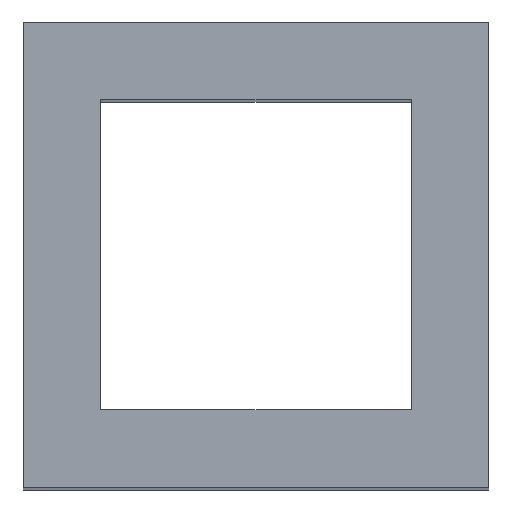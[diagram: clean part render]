
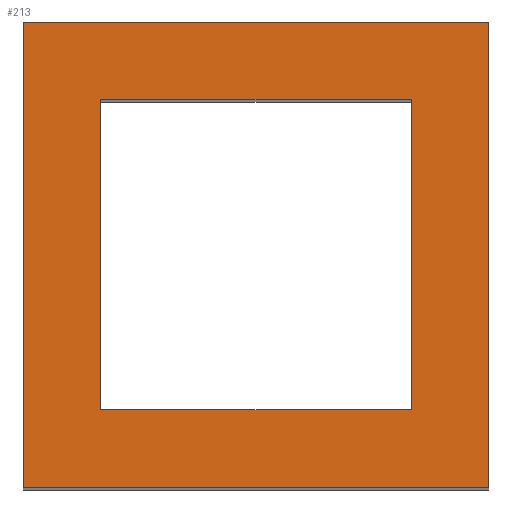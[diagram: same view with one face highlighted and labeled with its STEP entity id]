
A CAD part, top view. The second image highlights one B-rep face of the part: STEP entity #213.
In plain terms, the highlighted planar face has unit normal (0, 0, 1).
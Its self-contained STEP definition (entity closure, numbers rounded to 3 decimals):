
#24 = VERTEX_POINT('',#25);
#25 = CARTESIAN_POINT('',(-1.5,235.,69.));
#32 = PLANE('',#33);
#33 = AXIS2_PLACEMENT_3D('',#34,#35,#36);
#34 = CARTESIAN_POINT('',(-1.5,235.,4.));
#35 = DIRECTION('',(1.,0.,-0.));
#36 = DIRECTION('',(0.,0.,1.));
#44 = PLANE('',#45);
#45 = AXIS2_PLACEMENT_3D('',#46,#47,#48);
#46 = CARTESIAN_POINT('',(-1.5,235.,4.));
#47 = DIRECTION('',(-0.,1.,0.));
#48 = DIRECTION('',(0.,0.,1.));
#85 = VERTEX_POINT('',#86);
#86 = CARTESIAN_POINT('',(-1.5,253.,69.));
#100 = PLANE('',#101);
#101 = AXIS2_PLACEMENT_3D('',#102,#103,#104);
#102 = CARTESIAN_POINT('',(-1.5,253.,4.));
#103 = DIRECTION('',(-0.,1.,0.));
#104 = DIRECTION('',(0.,0.,1.));
#112 = EDGE_CURVE('',#24,#85,#113,.T.);
#113 = SURFACE_CURVE('',#114,(#118,#125),.PCURVE_S1.);
#114 = LINE('',#115,#116);
#115 = CARTESIAN_POINT('',(-1.5,235.,69.));
#116 = VECTOR('',#117,1.);
#117 = DIRECTION('',(-0.,1.,0.));
#118 = PCURVE('',#32,#119);
#119 = DEFINITIONAL_REPRESENTATION('',(#120),#124);
#120 = LINE('',#121,#122);
#121 = CARTESIAN_POINT('',(65.,0.));
#122 = VECTOR('',#123,1.);
#123 = DIRECTION('',(0.,-1.));
#124 = ( GEOMETRIC_REPRESENTATION_CONTEXT(2) 
PARAMETRIC_REPRESENTATION_CONTEXT() REPRESENTATION_CONTEXT('2D SPACE',''
  ) );
#125 = PCURVE('',#126,#131);
#126 = PLANE('',#127);
#127 = AXIS2_PLACEMENT_3D('',#128,#129,#130);
#128 = CARTESIAN_POINT('',(-1.5,235.,69.));
#129 = DIRECTION('',(0.,0.,1.));
#130 = DIRECTION('',(1.,0.,-0.));
#131 = DEFINITIONAL_REPRESENTATION('',(#132),#136);
#132 = LINE('',#133,#134);
#133 = CARTESIAN_POINT('',(0.,0.));
#134 = VECTOR('',#135,1.);
#135 = DIRECTION('',(0.,1.));
#136 = ( GEOMETRIC_REPRESENTATION_CONTEXT(2) 
PARAMETRIC_REPRESENTATION_CONTEXT() REPRESENTATION_CONTEXT('2D SPACE',''
  ) );
#165 = EDGE_CURVE('',#24,#166,#168,.T.);
#166 = VERTEX_POINT('',#167);
#167 = CARTESIAN_POINT('',(16.5,235.,69.));
#168 = SURFACE_CURVE('',#169,(#173,#180),.PCURVE_S1.);
#169 = LINE('',#170,#171);
#170 = CARTESIAN_POINT('',(-1.5,235.,69.));
#171 = VECTOR('',#172,1.);
#172 = DIRECTION('',(1.,0.,-0.));
#173 = PCURVE('',#44,#174);
#174 = DEFINITIONAL_REPRESENTATION('',(#175),#179);
#175 = LINE('',#176,#177);
#176 = CARTESIAN_POINT('',(65.,0.));
#177 = VECTOR('',#178,1.);
#178 = DIRECTION('',(0.,1.));
#179 = ( GEOMETRIC_REPRESENTATION_CONTEXT(2) 
PARAMETRIC_REPRESENTATION_CONTEXT() REPRESENTATION_CONTEXT('2D SPACE',''
  ) );
#180 = PCURVE('',#126,#181);
#181 = DEFINITIONAL_REPRESENTATION('',(#182),#186);
#182 = LINE('',#183,#184);
#183 = CARTESIAN_POINT('',(0.,0.));
#184 = VECTOR('',#185,1.);
#185 = DIRECTION('',(1.,0.));
#186 = ( GEOMETRIC_REPRESENTATION_CONTEXT(2) 
PARAMETRIC_REPRESENTATION_CONTEXT() REPRESENTATION_CONTEXT('2D SPACE',''
  ) );
#202 = PLANE('',#203);
#203 = AXIS2_PLACEMENT_3D('',#204,#205,#206);
#204 = CARTESIAN_POINT('',(16.5,235.,4.));
#205 = DIRECTION('',(1.,0.,-0.));
#206 = DIRECTION('',(0.,0.,1.));
#213 = ADVANCED_FACE('',(#214,#262),#126,.T.);
#214 = FACE_BOUND('',#215,.T.);
#215 = EDGE_LOOP('',(#216,#217,#218,#241));
#216 = ORIENTED_EDGE('',*,*,#112,.F.);
#217 = ORIENTED_EDGE('',*,*,#165,.T.);
#218 = ORIENTED_EDGE('',*,*,#219,.T.);
#219 = EDGE_CURVE('',#166,#220,#222,.T.);
#220 = VERTEX_POINT('',#221);
#221 = CARTESIAN_POINT('',(16.5,253.,69.));
#222 = SURFACE_CURVE('',#223,(#227,#234),.PCURVE_S1.);
#223 = LINE('',#224,#225);
#224 = CARTESIAN_POINT('',(16.5,235.,69.));
#225 = VECTOR('',#226,1.);
#226 = DIRECTION('',(-0.,1.,0.));
#227 = PCURVE('',#126,#228);
#228 = DEFINITIONAL_REPRESENTATION('',(#229),#233);
#229 = LINE('',#230,#231);
#230 = CARTESIAN_POINT('',(18.,0.));
#231 = VECTOR('',#232,1.);
#232 = DIRECTION('',(0.,1.));
#233 = ( GEOMETRIC_REPRESENTATION_CONTEXT(2) 
PARAMETRIC_REPRESENTATION_CONTEXT() REPRESENTATION_CONTEXT('2D SPACE',''
  ) );
#234 = PCURVE('',#202,#235);
#235 = DEFINITIONAL_REPRESENTATION('',(#236),#240);
#236 = LINE('',#237,#238);
#237 = CARTESIAN_POINT('',(65.,0.));
#238 = VECTOR('',#239,1.);
#239 = DIRECTION('',(0.,-1.));
#240 = ( GEOMETRIC_REPRESENTATION_CONTEXT(2) 
PARAMETRIC_REPRESENTATION_CONTEXT() REPRESENTATION_CONTEXT('2D SPACE',''
  ) );
#241 = ORIENTED_EDGE('',*,*,#242,.F.);
#242 = EDGE_CURVE('',#85,#220,#243,.T.);
#243 = SURFACE_CURVE('',#244,(#248,#255),.PCURVE_S1.);
#244 = LINE('',#245,#246);
#245 = CARTESIAN_POINT('',(-1.5,253.,69.));
#246 = VECTOR('',#247,1.);
#247 = DIRECTION('',(1.,0.,-0.));
#248 = PCURVE('',#126,#249);
#249 = DEFINITIONAL_REPRESENTATION('',(#250),#254);
#250 = LINE('',#251,#252);
#251 = CARTESIAN_POINT('',(0.,18.));
#252 = VECTOR('',#253,1.);
#253 = DIRECTION('',(1.,0.));
#254 = ( GEOMETRIC_REPRESENTATION_CONTEXT(2) 
PARAMETRIC_REPRESENTATION_CONTEXT() REPRESENTATION_CONTEXT('2D SPACE',''
  ) );
#255 = PCURVE('',#100,#256);
#256 = DEFINITIONAL_REPRESENTATION('',(#257),#261);
#257 = LINE('',#258,#259);
#258 = CARTESIAN_POINT('',(65.,0.));
#259 = VECTOR('',#260,1.);
#260 = DIRECTION('',(0.,1.));
#261 = ( GEOMETRIC_REPRESENTATION_CONTEXT(2) 
PARAMETRIC_REPRESENTATION_CONTEXT() REPRESENTATION_CONTEXT('2D SPACE',''
  ) );
#262 = FACE_BOUND('',#263,.T.);
#263 = EDGE_LOOP('',(#264,#292,#318,#344));
#264 = ORIENTED_EDGE('',*,*,#265,.T.);
#265 = EDGE_CURVE('',#266,#268,#270,.T.);
#266 = VERTEX_POINT('',#267);
#267 = CARTESIAN_POINT('',(13.5,238.,69.));
#268 = VERTEX_POINT('',#269);
#269 = CARTESIAN_POINT('',(1.5,238.,69.));
#270 = SURFACE_CURVE('',#271,(#275,#281),.PCURVE_S1.);
#271 = LINE('',#272,#273);
#272 = CARTESIAN_POINT('',(0.,238.,69.));
#273 = VECTOR('',#274,1.);
#274 = DIRECTION('',(-1.,-0.,0.));
#275 = PCURVE('',#126,#276);
#276 = DEFINITIONAL_REPRESENTATION('',(#277),#280);
#277 = B_SPLINE_CURVE_WITH_KNOTS('',1,(#278,#279),.UNSPECIFIED.,.F.,.F.,
  (2,2),(-13.5,-1.5),.PIECEWISE_BEZIER_KNOTS.);
#278 = CARTESIAN_POINT('',(15.,3.));
#279 = CARTESIAN_POINT('',(3.,3.));
#280 = ( GEOMETRIC_REPRESENTATION_CONTEXT(2) 
PARAMETRIC_REPRESENTATION_CONTEXT() REPRESENTATION_CONTEXT('2D SPACE',''
  ) );
#281 = PCURVE('',#282,#287);
#282 = PLANE('',#283);
#283 = AXIS2_PLACEMENT_3D('',#284,#285,#286);
#284 = CARTESIAN_POINT('',(1.5,238.,3.));
#285 = DIRECTION('',(-0.,1.,0.));
#286 = DIRECTION('',(0.,0.,1.));
#287 = DEFINITIONAL_REPRESENTATION('',(#288),#291);
#288 = B_SPLINE_CURVE_WITH_KNOTS('',1,(#289,#290),.UNSPECIFIED.,.F.,.F.,
  (2,2),(-13.5,-1.5),.PIECEWISE_BEZIER_KNOTS.);
#289 = CARTESIAN_POINT('',(66.,12.));
#290 = CARTESIAN_POINT('',(66.,0.));
#291 = ( GEOMETRIC_REPRESENTATION_CONTEXT(2) 
PARAMETRIC_REPRESENTATION_CONTEXT() REPRESENTATION_CONTEXT('2D SPACE',''
  ) );
#292 = ORIENTED_EDGE('',*,*,#293,.T.);
#293 = EDGE_CURVE('',#268,#294,#296,.T.);
#294 = VERTEX_POINT('',#295);
#295 = CARTESIAN_POINT('',(1.5,250.,69.));
#296 = SURFACE_CURVE('',#297,(#301,#307),.PCURVE_S1.);
#297 = LINE('',#298,#299);
#298 = CARTESIAN_POINT('',(1.5,236.5,69.));
#299 = VECTOR('',#300,1.);
#300 = DIRECTION('',(-0.,1.,0.));
#301 = PCURVE('',#126,#302);
#302 = DEFINITIONAL_REPRESENTATION('',(#303),#306);
#303 = B_SPLINE_CURVE_WITH_KNOTS('',1,(#304,#305),.UNSPECIFIED.,.F.,.F.,
  (2,2),(1.5,13.5),.PIECEWISE_BEZIER_KNOTS.);
#304 = CARTESIAN_POINT('',(3.,3.));
#305 = CARTESIAN_POINT('',(3.,15.));
#306 = ( GEOMETRIC_REPRESENTATION_CONTEXT(2) 
PARAMETRIC_REPRESENTATION_CONTEXT() REPRESENTATION_CONTEXT('2D SPACE',''
  ) );
#307 = PCURVE('',#308,#313);
#308 = PLANE('',#309);
#309 = AXIS2_PLACEMENT_3D('',#310,#311,#312);
#310 = CARTESIAN_POINT('',(1.5,238.,3.));
#311 = DIRECTION('',(1.,0.,-0.));
#312 = DIRECTION('',(0.,0.,1.));
#313 = DEFINITIONAL_REPRESENTATION('',(#314),#317);
#314 = B_SPLINE_CURVE_WITH_KNOTS('',1,(#315,#316),.UNSPECIFIED.,.F.,.F.,
  (2,2),(1.5,13.5),.PIECEWISE_BEZIER_KNOTS.);
#315 = CARTESIAN_POINT('',(66.,0.));
#316 = CARTESIAN_POINT('',(66.,-12.));
#317 = ( GEOMETRIC_REPRESENTATION_CONTEXT(2) 
PARAMETRIC_REPRESENTATION_CONTEXT() REPRESENTATION_CONTEXT('2D SPACE',''
  ) );
#318 = ORIENTED_EDGE('',*,*,#319,.F.);
#319 = EDGE_CURVE('',#320,#294,#322,.T.);
#320 = VERTEX_POINT('',#321);
#321 = CARTESIAN_POINT('',(13.5,250.,69.));
#322 = SURFACE_CURVE('',#323,(#327,#333),.PCURVE_S1.);
#323 = LINE('',#324,#325);
#324 = CARTESIAN_POINT('',(0.,250.,69.));
#325 = VECTOR('',#326,1.);
#326 = DIRECTION('',(-1.,-0.,0.));
#327 = PCURVE('',#126,#328);
#328 = DEFINITIONAL_REPRESENTATION('',(#329),#332);
#329 = B_SPLINE_CURVE_WITH_KNOTS('',1,(#330,#331),.UNSPECIFIED.,.F.,.F.,
  (2,2),(-13.5,-1.5),.PIECEWISE_BEZIER_KNOTS.);
#330 = CARTESIAN_POINT('',(15.,15.));
#331 = CARTESIAN_POINT('',(3.,15.));
#332 = ( GEOMETRIC_REPRESENTATION_CONTEXT(2) 
PARAMETRIC_REPRESENTATION_CONTEXT() REPRESENTATION_CONTEXT('2D SPACE',''
  ) );
#333 = PCURVE('',#334,#339);
#334 = PLANE('',#335);
#335 = AXIS2_PLACEMENT_3D('',#336,#337,#338);
#336 = CARTESIAN_POINT('',(1.5,250.,3.));
#337 = DIRECTION('',(-0.,1.,0.));
#338 = DIRECTION('',(0.,0.,1.));
#339 = DEFINITIONAL_REPRESENTATION('',(#340),#343);
#340 = B_SPLINE_CURVE_WITH_KNOTS('',1,(#341,#342),.UNSPECIFIED.,.F.,.F.,
  (2,2),(-13.5,-1.5),.PIECEWISE_BEZIER_KNOTS.);
#341 = CARTESIAN_POINT('',(66.,12.));
#342 = CARTESIAN_POINT('',(66.,0.));
#343 = ( GEOMETRIC_REPRESENTATION_CONTEXT(2) 
PARAMETRIC_REPRESENTATION_CONTEXT() REPRESENTATION_CONTEXT('2D SPACE',''
  ) );
#344 = ORIENTED_EDGE('',*,*,#345,.F.);
#345 = EDGE_CURVE('',#266,#320,#346,.T.);
#346 = SURFACE_CURVE('',#347,(#351,#357),.PCURVE_S1.);
#347 = LINE('',#348,#349);
#348 = CARTESIAN_POINT('',(13.5,236.5,69.));
#349 = VECTOR('',#350,1.);
#350 = DIRECTION('',(-0.,1.,0.));
#351 = PCURVE('',#126,#352);
#352 = DEFINITIONAL_REPRESENTATION('',(#353),#356);
#353 = B_SPLINE_CURVE_WITH_KNOTS('',1,(#354,#355),.UNSPECIFIED.,.F.,.F.,
  (2,2),(1.5,13.5),.PIECEWISE_BEZIER_KNOTS.);
#354 = CARTESIAN_POINT('',(15.,3.));
#355 = CARTESIAN_POINT('',(15.,15.));
#356 = ( GEOMETRIC_REPRESENTATION_CONTEXT(2) 
PARAMETRIC_REPRESENTATION_CONTEXT() REPRESENTATION_CONTEXT('2D SPACE',''
  ) );
#357 = PCURVE('',#358,#363);
#358 = PLANE('',#359);
#359 = AXIS2_PLACEMENT_3D('',#360,#361,#362);
#360 = CARTESIAN_POINT('',(13.5,238.,3.));
#361 = DIRECTION('',(1.,0.,-0.));
#362 = DIRECTION('',(0.,0.,1.));
#363 = DEFINITIONAL_REPRESENTATION('',(#364),#367);
#364 = B_SPLINE_CURVE_WITH_KNOTS('',1,(#365,#366),.UNSPECIFIED.,.F.,.F.,
  (2,2),(1.5,13.5),.PIECEWISE_BEZIER_KNOTS.);
#365 = CARTESIAN_POINT('',(66.,0.));
#366 = CARTESIAN_POINT('',(66.,-12.));
#367 = ( GEOMETRIC_REPRESENTATION_CONTEXT(2) 
PARAMETRIC_REPRESENTATION_CONTEXT() REPRESENTATION_CONTEXT('2D SPACE',''
  ) );
